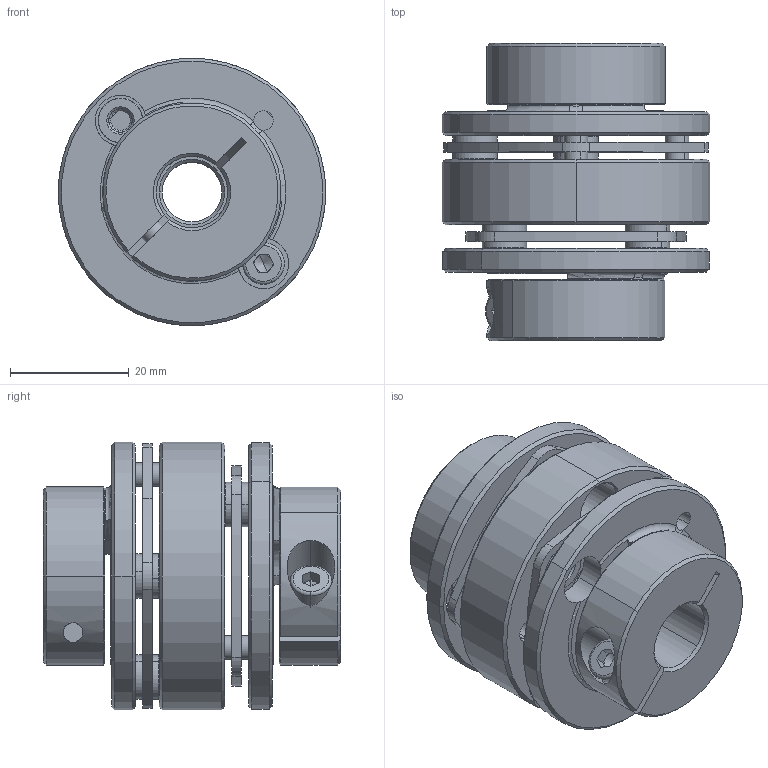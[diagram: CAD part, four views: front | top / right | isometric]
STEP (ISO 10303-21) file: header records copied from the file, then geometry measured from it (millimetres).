
FILE_DESCRIPTION (( 'STEP AP203' ), '1' );
FILE_NAME ('LE2-B-D45L50-10-12.STEP', '2021-11-01T06:27:55', ( '' ), ( '' ), 'SwSTEP 2.0', 'SolidWorks 2018', '' );
FILE_SCHEMA (( 'CONFIG_CONTROL_DESIGN' ));
Length unit declared in the file: millimetre
Products named in the file (1): LE2-B-D45L50-10-12
Bounding box: 45 x 50 x 45 mm (x, y, z)
Volume: 36931.1 mm3; surface area: 23907.8 mm2
Topology: 1 solids, 5 shells, 494 faces, 1194 edges, 732 vertices
Faces by surface type: cylinder 178, cone 154, plane 142, torus 18, bspline 2
Entity records: 14963 total; most frequent: CARTESIAN_POINT 2891, DIRECTION 2748, ORIENTED_EDGE 2364, EDGE_CURVE 1182, AXIS2_PLACEMENT_3D 1123, VERTEX_POINT 732, CIRCLE 630, EDGE_LOOP 586
